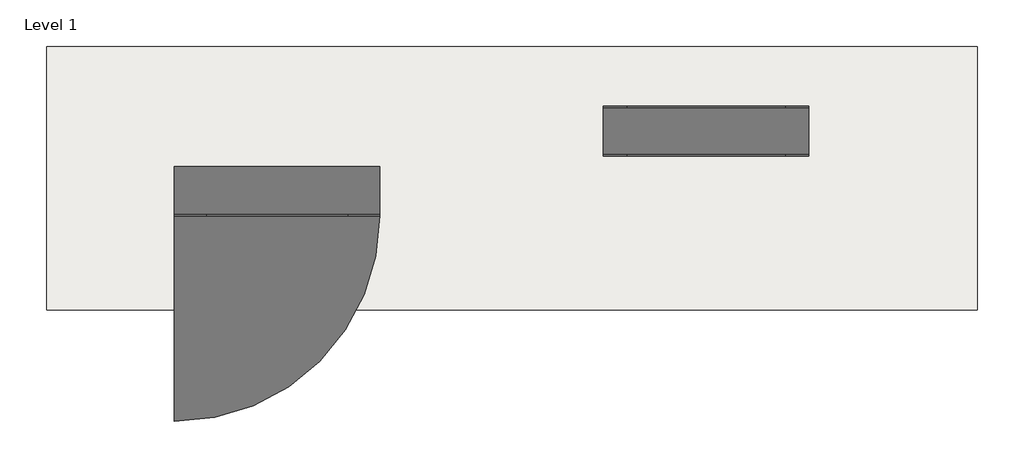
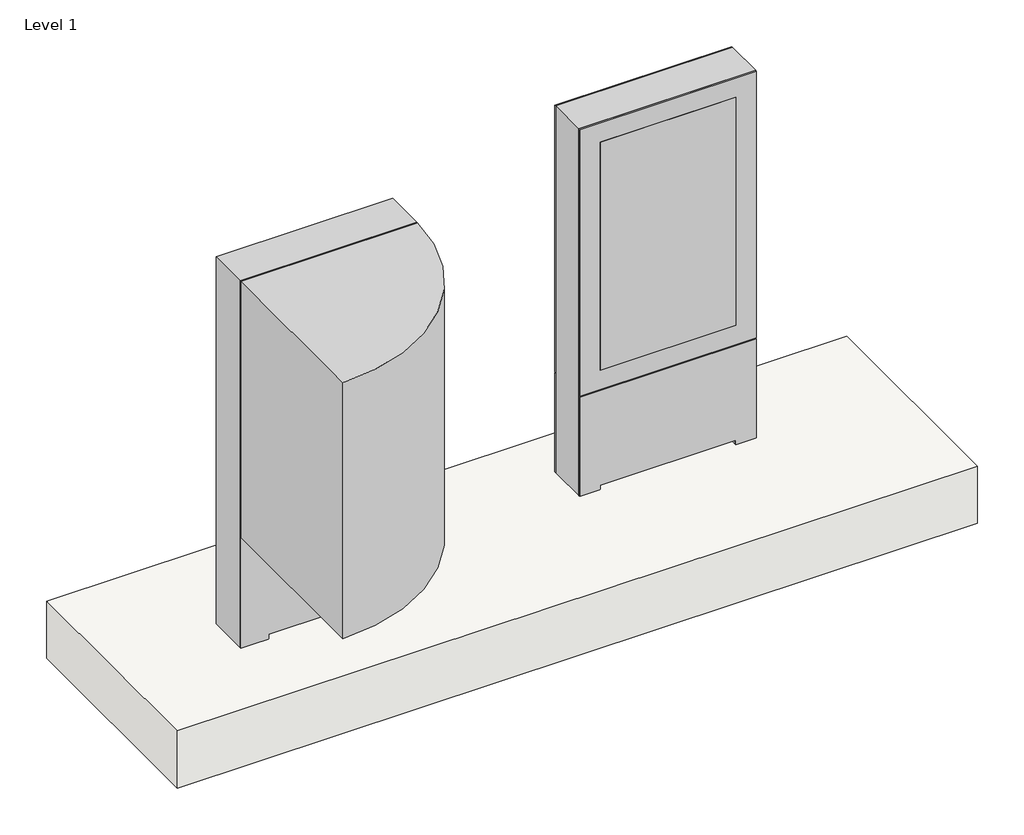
# One storey: 2 proxies, 1 slab.
"""IFC4 building model written with IfcOpenShell, lengths in millimetres."""

from ifc_helpers import new_model, si_unit, frame, origin, place, context, project, spatial, polyline, outline, extrude, transform, mapped, element, save
from components import specialty_equipment_57ea4322, specialty_equipment_d45c3ff0

model = new_model("IFC4")

# Units and contexts
model_context = context("Model", 3, world=origin())
ifc_project = project(units=[si_unit("LENGTHUNIT", "METRE", prefix="MILLI")], contexts=[model_context])

# Site, building, storey
site = spatial("IfcSite", under=ifc_project)
building = spatial("IfcBuilding", under=site)
storey = spatial("IfcBuildingStorey", under=building, Name="Level 1", Elevation=0.0)

# Proxies
placement = place(None, origin())
specialty_equipment_shape = specialty_equipment_57ea4322(model_context)
element("IfcBuildingElementProxy", 1, Name="Kiosk-Floor_Mounted-Chief-Impact-Portrait : 49\" Single Kiosk, Black", ObjectType="Kiosk-Floor_Mounted-Chief-Impact-Portrait : 49\" Single Kiosk, Black", at=placement, inside=storey, context=model_context, shape_type="MappedRepresentation", body=[
    mapped(specialty_equipment_shape, transform((1721.746144, 2197.0842898, 0.0), x_axis=(1.0, 0.0, 0.0), y_axis=(0.0, 1.0, 0.0), z_axis=(0.0, 0.0, 1.0))),
])
specialty_equipment_2_shape = specialty_equipment_d45c3ff0(model_context)
element("IfcBuildingElementProxy", 2, Name="Kiosk-Floor_Mounted-Chief-Impact-Portrait : 55\" Back to Back Kiosk, White", ObjectType="Kiosk-Floor_Mounted-Chief-Impact-Portrait : 55\" Back to Back Kiosk, White", at=placement, inside=storey, context=model_context, shape_type="MappedRepresentation", body=[
    mapped(specialty_equipment_2_shape, transform((3583.054006, 2458.6740503, 0.0), x_axis=(1.0, 0.0, 0.0), y_axis=(0.0, 1.0, 0.0), z_axis=(0.0, 0.0, 1.0))),
])

# Slab
element("IfcSlab", 3, ObjectType="Generic - 12\"", at=placement, inside=storey, context=model_context, shape_type="SweptSolid", body=[
    extrude(outline(polyline([(4759.7659543, 2825.8758812), (4759.7659543, 1682.8758812), (721.1659543, 1682.8758812), (721.1659543, 2825.8758812), (4759.7659543, 2825.8758812)])), frame((0.0, 0.0, -304.8), z_axis=(0.0, 0.0, 1.0), x_axis=(1.0, 0.0, 0.0)), (0.0, 0.0, 1.0), 304.8),
])

save(model, "model.ifc")
